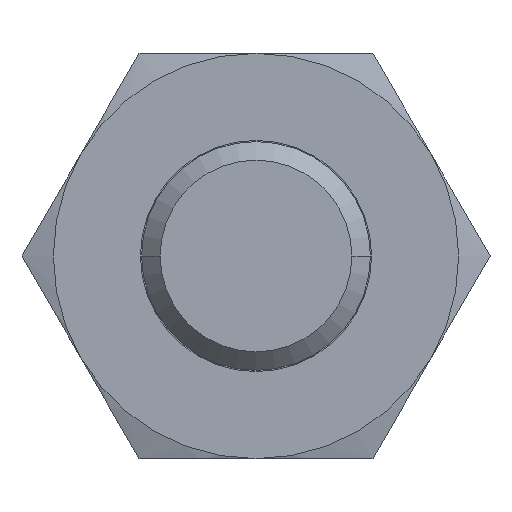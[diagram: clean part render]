
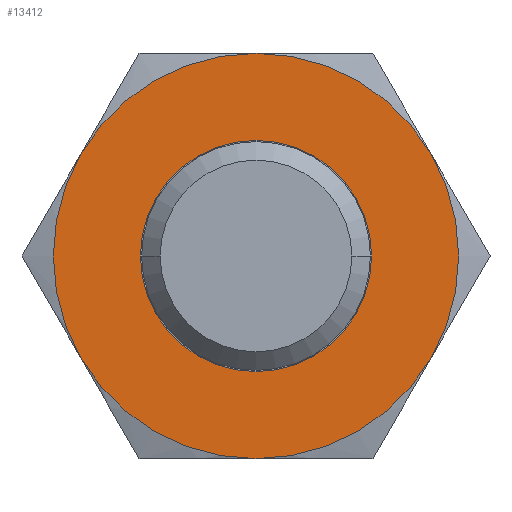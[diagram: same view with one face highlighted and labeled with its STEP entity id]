
A CAD part, left-side view. The second image highlights one B-rep face of the part: STEP entity #13412.
In plain terms, the highlighted free-form (B-spline) face has degree [1, 1] with [2, 2] control points.
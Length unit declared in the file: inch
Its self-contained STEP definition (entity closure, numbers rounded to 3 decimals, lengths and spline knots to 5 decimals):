
#4406=CARTESIAN_POINT('',(-0.2775,0.0,-0.4375));
#4407=VERTEX_POINT('',#4406);
#4441=CARTESIAN_POINT('',(-0.2775,0.,0.4375));
#4442=VERTEX_POINT('',#4441);
#4449=CARTESIAN_POINT('',(-0.2775,0.0,0.0));
#4450=DIRECTION('',(-1.0,0.0,0.0));
#4451=DIRECTION('',(0.0,0.0,-1.0));
#4452=AXIS2_PLACEMENT_3D('',#4449,#4450,#4451);
#4453=CIRCLE('',#4452,0.4375);
#4454=EDGE_CURVE('',#4407,#4442,#4453,.T.);
#4886=CARTESIAN_POINT('',(-0.2775,0.2495,0.0));
#4887=VERTEX_POINT('',#4886);
#4896=CARTESIAN_POINT('',(-0.2775,-0.2495,0.));
#4897=VERTEX_POINT('',#4896);
#4898=CARTESIAN_POINT('',(-0.2775,0.0,0.0));
#4899=DIRECTION('',(-1.0,0.0,0.0));
#4900=DIRECTION('',(0.0,1.0,0.0));
#4901=AXIS2_PLACEMENT_3D('',#4898,#4899,#4900);
#4902=CIRCLE('',#4901,0.2495);
#4903=EDGE_CURVE('',#4887,#4897,#4902,.T.);
#12140=CARTESIAN_POINT('',(-0.2775,0.0,0.0));
#12141=DIRECTION('',(-1.0,0.0,0.0));
#12142=DIRECTION('',(0.0,1.0,0.0));
#12143=AXIS2_PLACEMENT_3D('',#12140,#12141,#12142);
#12144=CIRCLE('',#12143,0.2495);
#12145=EDGE_CURVE('',#4897,#4887,#12144,.T.);
#13385=CARTESIAN_POINT('',(-0.2775,0.0,0.0));
#13386=DIRECTION('',(-1.0,0.0,0.0));
#13387=DIRECTION('',(0.0,0.0,-1.0));
#13388=AXIS2_PLACEMENT_3D('',#13385,#13386,#13387);
#13389=CIRCLE('',#13388,0.4375);
#13390=EDGE_CURVE('',#4442,#4407,#13389,.T.);
#13399=CARTESIAN_POINT('',(-0.2775,0.4375,0.4375));
#13400=CARTESIAN_POINT('',(-0.2775,0.4375,-0.4375));
#13401=CARTESIAN_POINT('',(-0.2775,-0.4375,0.4375));
#13402=CARTESIAN_POINT('',(-0.2775,-0.4375,-0.4375));
#13403=B_SPLINE_SURFACE_WITH_KNOTS('',1,1,((#13399,#13401),(#13400,#13402)),.UNSPECIFIED.,.F.,.F.,.U.,(2,2),(2,2),(0.0,0.875),(0.0,0.875),.UNSPECIFIED.);
#13404=ORIENTED_EDGE('',*,*,#4454,.T.);
#13405=ORIENTED_EDGE('',*,*,#13390,.T.);
#13406=EDGE_LOOP('',(#13404,#13405));
#13407=FACE_OUTER_BOUND('',#13406,.T.);
#13408=ORIENTED_EDGE('',*,*,#4903,.F.);
#13409=ORIENTED_EDGE('',*,*,#12145,.F.);
#13410=EDGE_LOOP('',(#13408,#13409));
#13411=FACE_BOUND('',#13410,.T.);
#13412=ADVANCED_FACE('',(#13407,#13411),#13403,.T.);
